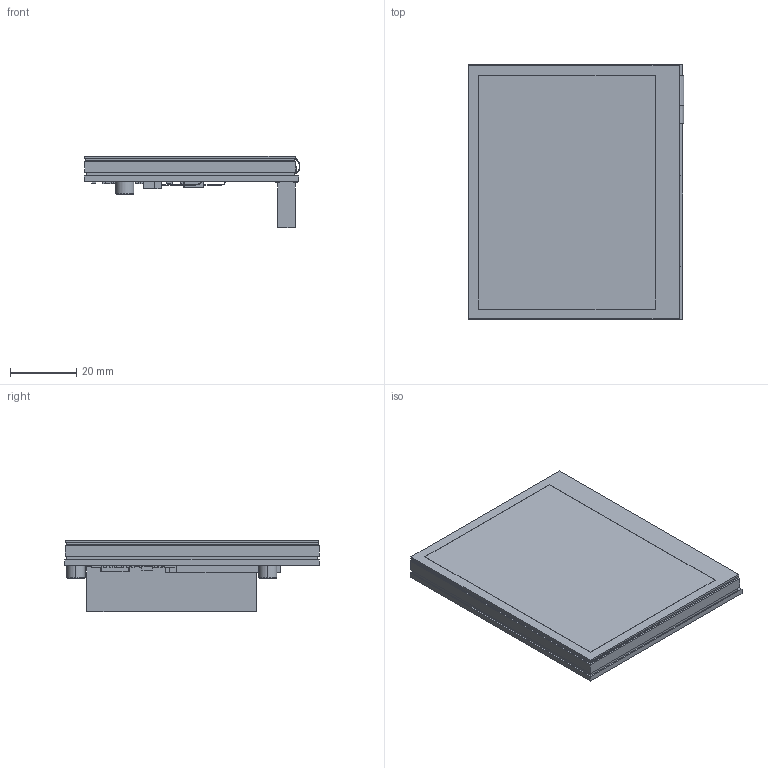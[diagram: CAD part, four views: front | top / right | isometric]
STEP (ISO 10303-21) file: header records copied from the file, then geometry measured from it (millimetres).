
FILE_DESCRIPTION((''),'2;1');
FILE_NAME('3_5INCH-DPI-LCD_ASM','2023-02-10T15:21:13',('xiaojisheng'),(''),'CREO PARAMETRIC BY PTC INC, 2021063','CREO PARAMETRIC BY PTC INC, 2021063','');
FILE_SCHEMA(('CONFIG_CONTROL_DESIGN','SHAPE_APPEARANCE_LAYERS_GROUPS'));
Products named in the file (7): 3_5INCH-DPI-PCBA; STUDS-M2_5XH4; 3_5INCH-DPI-LCD-PCBA_ASM; 3_5INCH-640X480-TFT; 3_5INCH-DPI-TP; EVA; 3_5INCH-DPI-LCD_ASM
Assembly tree (7 placements, depth 3):
  3_5INCH-DPI-LCD_ASM
    3_5INCH-DPI-LCD-PCBA_ASM
      3_5INCH-DPI-PCBA
      STUDS-M2_5XH4  x2
    3_5INCH-640X480-TFT
    3_5INCH-DPI-TP
    EVA
Bounding box: 65.19 x 77.01 x 21.7 mm (x, y, z)
Volume: 33550.5 mm3; surface area: 44551 mm2
Topology: 7 solids, 8 shells, 1542 faces, 4202 edges, 2755 vertices
Faces by surface type: plane 1185, cylinder 325, cone 20, bspline 8, extrusion 4
Entity records: 60768 total; most frequent: CARTESIAN_POINT 11135, ORIENTED_EDGE 8264, DIRECTION 7257, EDGE_CURVE 4132, VECTOR 3279, LINE 3275, VERTEX_POINT 2711, AXIS2_PLACEMENT_3D 1989
